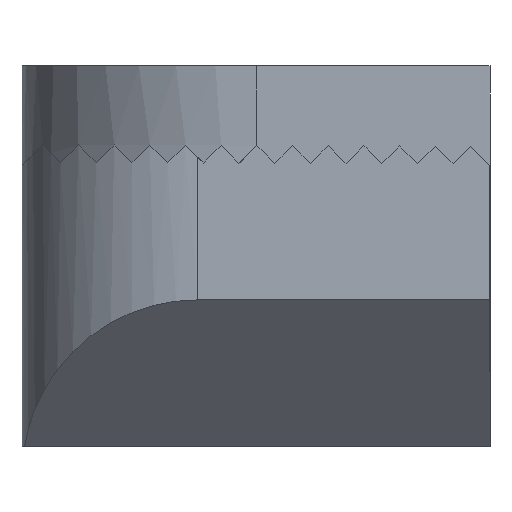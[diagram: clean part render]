
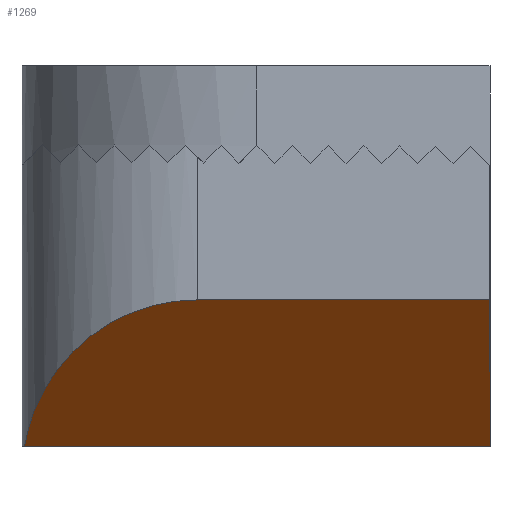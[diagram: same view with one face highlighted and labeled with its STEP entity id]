
A CAD part, left-side view. The second image highlights one B-rep face of the part: STEP entity #1269.
In plain terms, the highlighted planar face has unit normal (-0.707, 0, -0.707).
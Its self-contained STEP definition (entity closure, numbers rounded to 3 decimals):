
#25 = AXIS2_PLACEMENT_3D ( 'NONE', #3147, #2781, #2407 ) ;
#29 = VECTOR ( 'NONE', #1177, 1000. ) ;
#203 = CARTESIAN_POINT ( 'NONE',  ( -23.453, 9.385, 0. ) ) ;
#235 = ORIENTED_EDGE ( 'NONE', *, *, #3308, .T. ) ;
#314 = CARTESIAN_POINT ( 'NONE',  ( -23.453, 9.385, 0. ) ) ;
#561 = CARTESIAN_POINT ( 'NONE',  ( -25.953, 6.427, 2.5 ) ) ;
#641 = EDGE_CURVE ( 'NONE', #2339, #2804, #2431, .T. ) ;
#673 = CARTESIAN_POINT ( 'NONE',  ( -24.964, 9.129, 1.511 ) ) ;
#786 = DIRECTION ( 'NONE',  ( 0., -1., 0. ) ) ;
#909 = DIRECTION ( 'NONE',  ( -0.707, 0., 0.707 ) ) ;
#958 = EDGE_LOOP ( 'NONE', ( #2464, #3234, #2890, #235 ) ) ;
#1042 = CARTESIAN_POINT ( 'NONE',  ( -25.953, 7.959, 2.5 ) ) ;
#1152 = CARTESIAN_POINT ( 'NONE',  ( -23.453, 9.427, 0. ) ) ;
#1177 = DIRECTION ( 'NONE',  ( 0., -1., 0. ) ) ;
#1187 = CARTESIAN_POINT ( 'NONE',  ( -23.453, 1.427, 0. ) ) ;
#1264 = VECTOR ( 'NONE', #909, 1000. ) ;
#1269 = ADVANCED_FACE ( 'NONE', ( #2770 ), #3512, .F. ) ;
#1273 = CARTESIAN_POINT ( 'NONE',  ( -25.953, 1.427, 2.5 ) ) ;
#1407 = CARTESIAN_POINT ( 'NONE',  ( -25.953, 6.427, 2.5 ) ) ;
#1514 = LINE ( 'NONE', #1152, #2425 ) ;
#1542 = CARTESIAN_POINT ( 'NONE',  ( -25.953, 9.427, 2.5 ) ) ;
#1764 = EDGE_CURVE ( 'NONE', #2339, #1897, #1922, .T. ) ;
#1897 = VERTEX_POINT ( 'NONE', #2321 ) ;
#1922 = LINE ( 'NONE', #1542, #29 ) ;
#2321 = CARTESIAN_POINT ( 'NONE',  ( -25.953, 1.427, 2.5 ) ) ;
#2339 = VERTEX_POINT ( 'NONE', #561 ) ;
#2407 = DIRECTION ( 'NONE',  ( 0.707, 0., -0.707 ) ) ;
#2425 = VECTOR ( 'NONE', #786, 1000. ) ;
#2431 =( BOUNDED_CURVE ( )  B_SPLINE_CURVE ( 3, ( #1407, #1042, #673, #314 ),
 .UNSPECIFIED., .F., .F. ) 
 B_SPLINE_CURVE_WITH_KNOTS ( ( 4, 4 ),
 ( 3.142, 4.545 ),
 .UNSPECIFIED. ) 
 CURVE ( )  GEOMETRIC_REPRESENTATION_ITEM ( )  RATIONAL_B_SPLINE_CURVE ( ( 1., 0.843, 0.843, 1. ) ) 
 REPRESENTATION_ITEM ( '' )  );
#2464 = ORIENTED_EDGE ( 'NONE', *, *, #1764, .F. ) ;
#2753 = LINE ( 'NONE', #1273, #1264 ) ;
#2770 = FACE_OUTER_BOUND ( 'NONE', #958, .T. ) ;
#2781 = DIRECTION ( 'NONE',  ( 0.707, 0., 0.707 ) ) ;
#2804 = VERTEX_POINT ( 'NONE', #203 ) ;
#2890 = ORIENTED_EDGE ( 'NONE', *, *, #2895, .T. ) ;
#2895 = EDGE_CURVE ( 'NONE', #2804, #3348, #1514, .T. ) ;
#3147 = CARTESIAN_POINT ( 'NONE',  ( -25.953, 9.427, 2.5 ) ) ;
#3234 = ORIENTED_EDGE ( 'NONE', *, *, #641, .T. ) ;
#3308 = EDGE_CURVE ( 'NONE', #3348, #1897, #2753, .T. ) ;
#3348 = VERTEX_POINT ( 'NONE', #1187 ) ;
#3512 = PLANE ( 'NONE',  #25 ) ;
